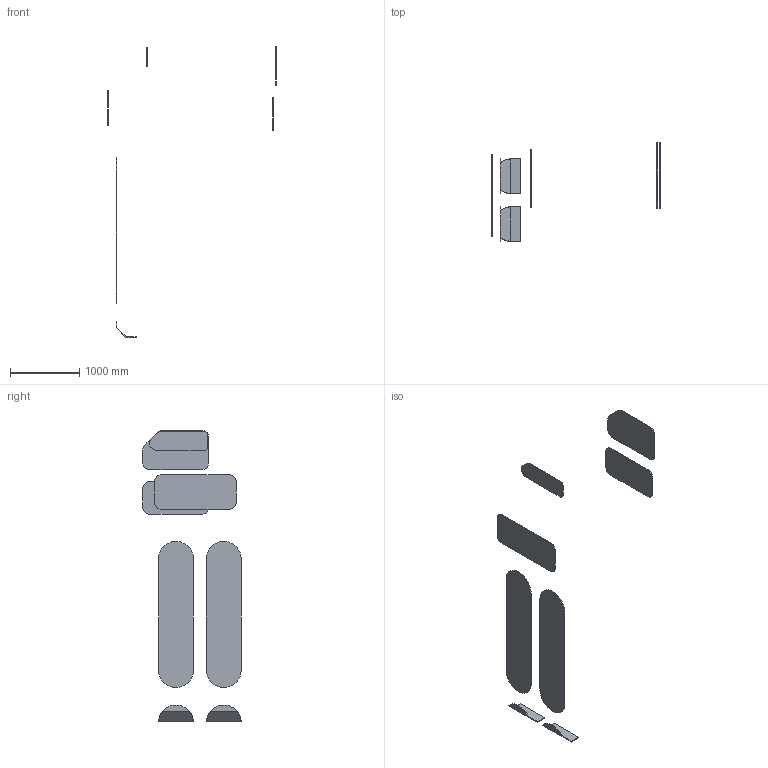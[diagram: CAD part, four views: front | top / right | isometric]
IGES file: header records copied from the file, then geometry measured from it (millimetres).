
Start section: START RECORD GO HERE.
Global section: file name: bati-vitres.igs; native system: IBM CATIA IGES - CATIA Version 5 Release 10 ; preprocessor: CATIA Version 5 Release 10 ; date: 20030711.094542; units: millimetre
Bounding box: 2435 x 1418.23 x 4200.26 mm (x, y, z)
Surface area: 8475281.5 mm2 (no closed solid volume)
Topology: 0 solids, 0 shells, 70 faces, 324 edges, 324 vertices
Faces by surface type: plane 47, revolution 23
